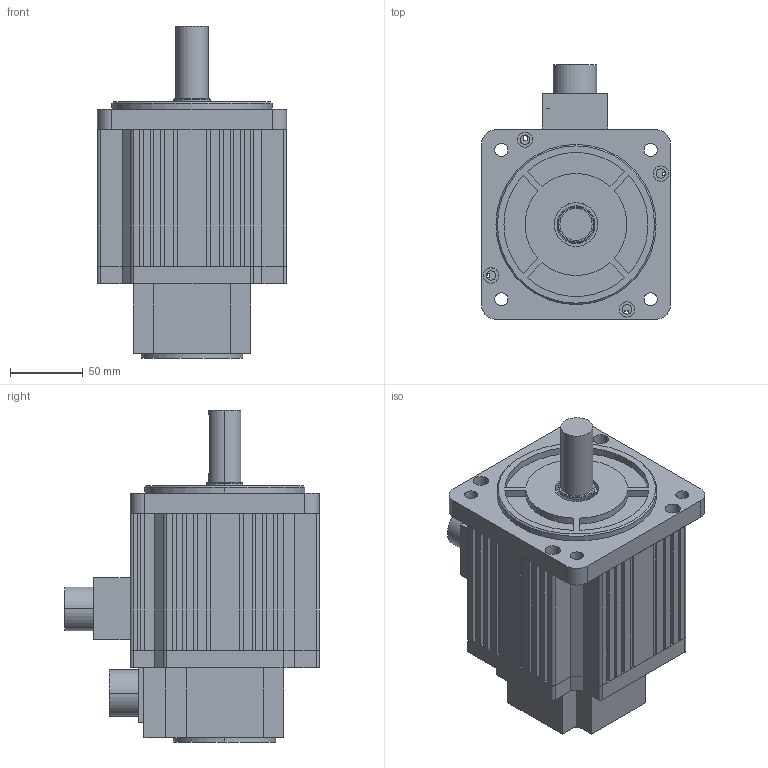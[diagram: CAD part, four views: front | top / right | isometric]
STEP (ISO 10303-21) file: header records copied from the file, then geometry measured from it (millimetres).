
FILE_DESCRIPTION (( 'STEP AP203' ), '1' );
FILE_NAME ('130-05025.STEP', '2020-03-09T13:18:19', ( '' ), ( '' ), 'SwSTEP 2.0', 'SolidWorks 2016', '' );
FILE_SCHEMA (( 'CONFIG_CONTROL_DESIGN' ));
Length unit declared in the file: millimetre
Products named in the file (8): 130瑤脣; 130粣; 130-05025; 130晤鎢ん; 130侜督綴裔; 130-5N隅赽; 130瑤脣2; 130侜督ヶ裔
Assembly tree (7 placements, depth 2):
  130-05025
    130-5N隅赽
    130侜督ヶ裔
    130侜督綴裔
    130晤鎢ん
    130粣
    130瑤脣2
    130瑤脣
Bounding box: 130 x 175 x 228 mm (x, y, z)
Volume: 1029776.1 mm3; surface area: 281309.3 mm2
Topology: 8 solids, 8 shells, 534 faces, 1345 edges, 880 vertices
Faces by surface type: plane 337, cylinder 181, cone 10, bspline 4, torus 2
Entity records: 16918 total; most frequent: CARTESIAN_POINT 2871, DIRECTION 2797, ORIENTED_EDGE 2674, EDGE_CURVE 1337, AXIS2_PLACEMENT_3D 936, LINE 925, VECTOR 925, VERTEX_POINT 880
